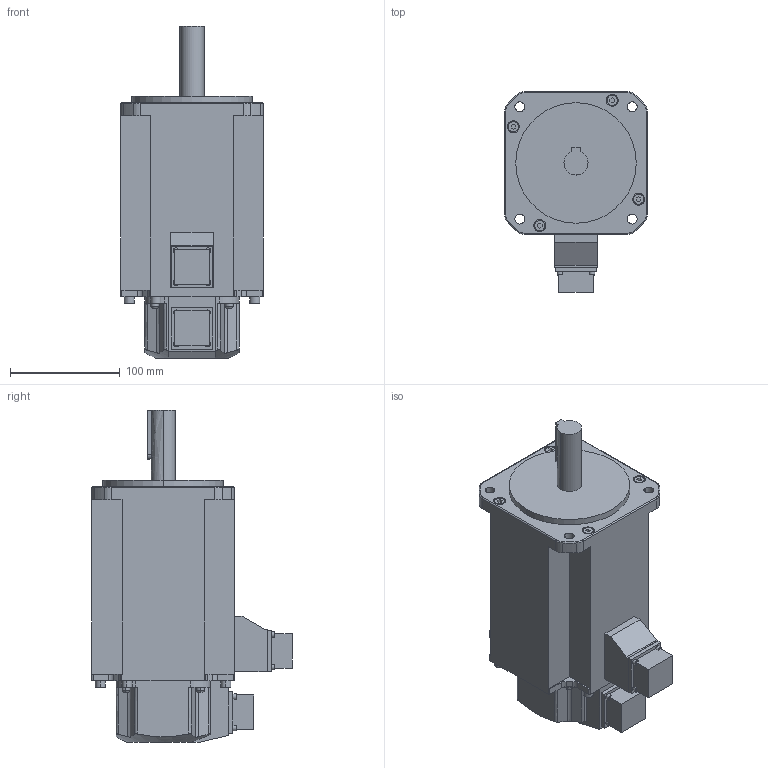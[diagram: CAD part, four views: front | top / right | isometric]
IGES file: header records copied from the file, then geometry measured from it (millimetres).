
Start section:  PTC IGES file: rsmh_15atk3.igs
Global section: file name: rsmh_15atk3.igs; native system: Pro/ENGINEER by Parametric Technology Corporation; preprocessor: 2004440; author: Administrator; organization: Unknown; date: 070829.192738; units: millimetre
Bounding box: 130 x 182.7 x 303 mm (x, y, z)
Volume: 3067252.3 mm3; surface area: 164530.9 mm2
Topology: 1 solids, 1 shells, 290 faces, 744 edges, 488 vertices
Faces by surface type: bspline 164, revolution 126
